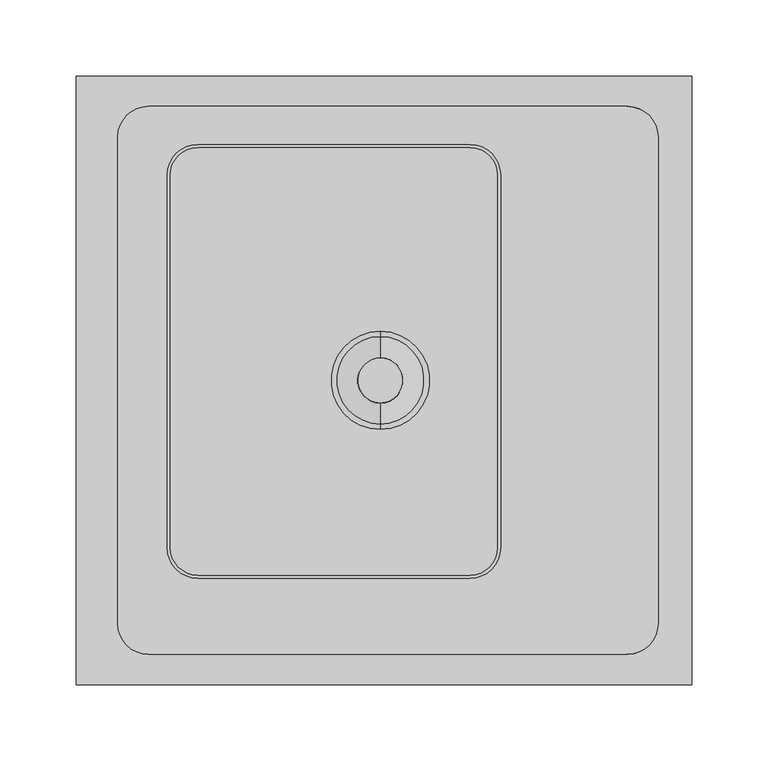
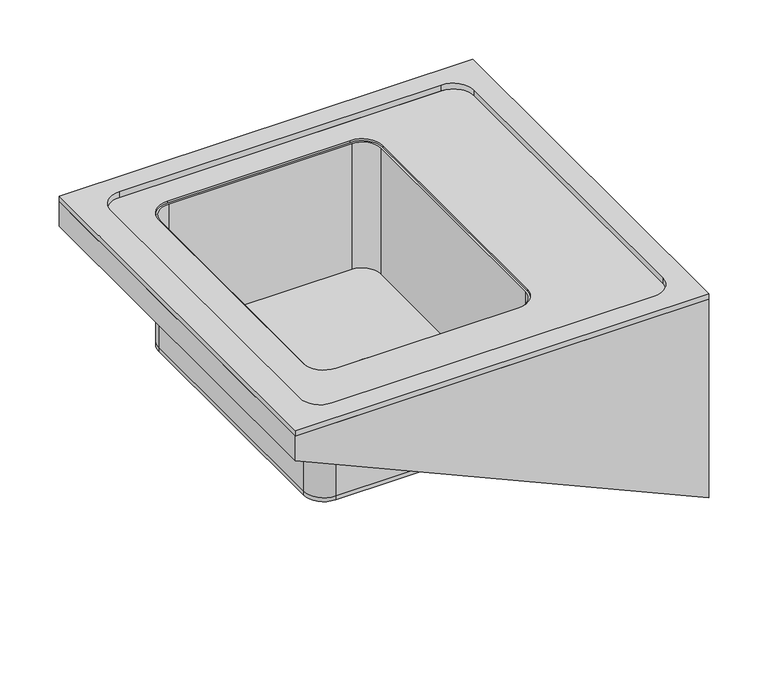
"""IFC4 building model written with IfcOpenShell, lengths in millimetres: flow terminal geometry, Pileta Aulas con Cartela : Pileta laboratorio."""

import ifcopenshell
import ifcopenshell.guid

model = None  # the IFC model being written
_history = None  # IfcOwnerHistory: only IFC2X3 demands one
_inside = {}  # id of a spatial element -> (the spatial element, [elements in it])
_under = {}  # id of a project, library or spatial element -> (it, [spatial elements below it])
_declared = {}  # id of a project -> (the project, [libraries it declares])
_typed = {}  # id of a type object -> (the type object, [elements of that type])
_made_of = {}  # id of a material, layer set ... -> (it, [elements and type objects made of it])


def new_model(schema):
    """Start an empty IFC model of exactly this schema.

    Asked for "IFC4X3", IfcOpenShell would pick the latest addendum, in which some entities
    have other attributes; the version numbers below select the first issue.
    IFC2X3 requires an IfcOwnerHistory on every rooted entity: one is made here for all.
    """
    global model, _history
    if schema == "IFC4X3":
        model = ifcopenshell.file(schema_version=(4, 3, 0, 0))
    else:
        model = ifcopenshell.file(schema=schema)
    _inside.clear()
    _under.clear()
    _declared.clear()
    _typed.clear()
    _made_of.clear()
    _history = None
    if model.schema == "IFC2X3":
        org = make("IfcOrganization", Name="unknown")
        user = make(
            "IfcPersonAndOrganization",
            ThePerson=make("IfcPerson", FamilyName="unknown"),
            TheOrganization=org,
        )
        app = make(
            "IfcApplication",
            ApplicationDeveloper=org,
            Version="unknown",
            ApplicationFullName="unknown",
            ApplicationIdentifier="unknown",
        )
        _history = make(
            "IfcOwnerHistory",
            OwningUser=user,
            OwningApplication=app,
            ChangeAction="ADDED",
            CreationDate=0,
        )
    return model


def make(cls, **values):
    """One entity of the class cls with the attributes given. An attribute that is None is left unset."""
    return model.create_entity(
        cls, **{name: value for name, value in values.items() if value is not None}
    )


def rooted(cls, **values):
    """An entity with a GlobalId (a new one), such as an element, a storey or a relation."""
    return make(cls, GlobalId=ifcopenshell.guid.new(), OwnerHistory=_history, **values)


def si_unit(unit_type, name, prefix=None):
    """IfcSIUnit, for example si_unit("LENGTHUNIT", "METRE", prefix="MILLI")."""
    return make("IfcSIUnit", UnitType=unit_type, Prefix=prefix, Name=name)


def assignment(units):
    """IfcUnitAssignment: the units of a project."""
    return None if units is None else make("IfcUnitAssignment", Units=units)


def point(xyz):
    """IfcCartesianPoint."""
    return None if xyz is None else make("IfcCartesianPoint", Coordinates=xyz)


def direction(xyz):
    """IfcDirection."""
    return None if xyz is None else make("IfcDirection", DirectionRatios=xyz)


def frame(location, z_axis=None, x_axis=None):
    """IfcAxis2Placement3D, a coordinate frame: its origin and axes. An axis left out is left unset."""
    return make(
        "IfcAxis2Placement3D",
        Location=point(location),
        Axis=direction(z_axis),
        RefDirection=direction(x_axis),
    )


def frame_2d(location, x_axis=None):
    """IfcAxis2Placement2D, a coordinate frame in the plane: its origin and x axis."""
    return make(
        "IfcAxis2Placement2D", Location=point(location), RefDirection=direction(x_axis)
    )


def origin():
    """The frame at (0, 0, 0) with its axes left unset."""
    return frame((0.0, 0.0, 0.0))


def origin_2d():
    """The frame at (0, 0) in the plane with its x axis left unset."""
    return frame_2d((0.0, 0.0))


def place(relative_to, where):
    """IfcLocalPlacement: puts the frame where relative to a parent placement (None: the world)."""
    return make(
        "IfcLocalPlacement", PlacementRelTo=relative_to, RelativePlacement=where
    )


def context(
    kind, dimensions, precision=None, world=None, true_north=None, identifier=None
):
    """IfcGeometricRepresentationContext, for example the 3D "Model" context."""
    return make(
        "IfcGeometricRepresentationContext",
        ContextIdentifier=identifier,
        ContextType=kind,
        CoordinateSpaceDimension=dimensions,
        Precision=precision,
        WorldCoordinateSystem=world,
        TrueNorth=true_north,
    )


def project(units=None, contexts=None):
    """IfcProject with its units and contexts."""
    return rooted(
        "IfcProject",
        Name="project",
        RepresentationContexts=contexts,
        UnitsInContext=assignment(units),
    )


def spatial(cls, under=None, at=None, **own):
    """A site, building, storey or space (cls), placed at a placement, below another one or the project."""
    s = rooted(cls, ObjectPlacement=at, **own)
    if under is not None:
        _under.setdefault(under.id(), (under, []))[1].append(s)
    return s


def polyline(points):
    """IfcPolyline through the points."""
    return make("IfcPolyline", Points=[point(p) for p in points])


def circle_curve(where, radius):
    """IfcCircle in the frame where."""
    return make("IfcCircle", Position=where, Radius=radius)


def ellipse_curve(where, semi_axis1, semi_axis2):
    """IfcEllipse in the frame where."""
    return make(
        "IfcEllipse", Position=where, SemiAxis1=semi_axis1, SemiAxis2=semi_axis2
    )


def trimmed(basis, trim1, trim2, sense, master):
    """IfcTrimmedCurve: the piece of a basis curve between two trims."""
    return make(
        "IfcTrimmedCurve",
        BasisCurve=basis,
        Trim1=trim1,
        Trim2=trim2,
        SenseAgreement=sense,
        MasterRepresentation=master,
    )


def segment(curve, same_sense, transition):
    """IfcCompositeCurveSegment."""
    return make(
        "IfcCompositeCurveSegment",
        Transition=transition,
        SameSense=same_sense,
        ParentCurve=curve,
    )


def composite_curve(segments, self_intersect=None):
    """IfcCompositeCurve: segments joined end to end."""
    return make("IfcCompositeCurve", Segments=segments, SelfIntersect=self_intersect)


def outline(outer, holes=None, kind="AREA"):
    """IfcArbitraryClosedProfileDef: a profile drawn as a closed curve; with holes, ...WithVoids."""
    if holes is None:
        return make("IfcArbitraryClosedProfileDef", ProfileType=kind, OuterCurve=outer)
    return make(
        "IfcArbitraryProfileDefWithVoids",
        ProfileType=kind,
        OuterCurve=outer,
        InnerCurves=holes,
    )


def extrude(swept, where, along, depth):
    """IfcExtrudedAreaSolid: the profile swept, set in the frame where, extruded along a direction by depth."""
    return make(
        "IfcExtrudedAreaSolid",
        SweptArea=swept,
        Position=where,
        ExtrudedDirection=direction(along),
        Depth=depth,
    )


def faces_of(points, faces, orient=None, outer=None):
    """IfcFace entities. A face is a list of loops; a loop is a list of indices into points, from 0.

    orient and outer hold one flag for each loop. By default every Orientation is true, the
    first loop of a face is its IfcFaceOuterBound and the others are IfcFaceBound.
    """
    made = []
    for i, loops in enumerate(faces):
        bounds = []
        for j, loop in enumerate(loops):
            is_outer = j == 0 if outer is None else outer[i][j]
            bounds.append(
                make(
                    "IfcFaceOuterBound" if is_outer else "IfcFaceBound",
                    Bound=make("IfcPolyLoop", Polygon=[points[k] for k in loop]),
                    Orientation=True if orient is None else orient[i][j],
                )
            )
        made.append(make("IfcFace", Bounds=bounds))
    return made


def faceted_brep(points, faces, orient=None, outer=None, voids=None):
    """IfcFacetedBrep: a solid bounded by flat faces; with voids (closed shells), ...WithVoids."""
    shared = [point(p) for p in points]
    hull = make("IfcClosedShell", CfsFaces=faces_of(shared, faces, orient, outer))
    if voids is None:
        return make("IfcFacetedBrep", Outer=hull)
    return make(
        "IfcFacetedBrepWithVoids",
        Outer=hull,
        Voids=[
            make(cls, CfsFaces=faces_of(shared, fs, o, b)) for cls, fs, o, b in voids
        ],
    )


def shape(context_of_items, identifier, shape_type, items):
    """IfcShapeRepresentation: the items that make up one representation, for example the "Body"."""
    return make(
        "IfcShapeRepresentation",
        ContextOfItems=context_of_items,
        RepresentationIdentifier=identifier,
        RepresentationType=shape_type,
        Items=items,
    )


def source(mapping_origin, context_of_items, identifier, shape_type, items):
    """IfcRepresentationMap: a shape defined once, which mapped items show again and again."""
    return make(
        "IfcRepresentationMap",
        MappingOrigin=mapping_origin,
        MappedRepresentation=shape(context_of_items, identifier, shape_type, items),
    )


def transform(
    local_origin,
    x_axis=None,
    y_axis=None,
    z_axis=None,
    scale=None,
    scale2=None,
    scale3=None,
    uniform=True,
):
    """IfcCartesianTransformationOperator3D, or its non-uniform kind. x_axis, y_axis, z_axis: its Axis1, 2, 3."""
    if uniform:
        return make(
            "IfcCartesianTransformationOperator3D",
            Axis1=direction(x_axis),
            Axis2=direction(y_axis),
            LocalOrigin=point(local_origin),
            Scale=scale,
            Axis3=direction(z_axis),
        )
    return make(
        "IfcCartesianTransformationOperator3DnonUniform",
        Axis1=direction(x_axis),
        Axis2=direction(y_axis),
        LocalOrigin=point(local_origin),
        Scale=scale,
        Axis3=direction(z_axis),
        Scale2=scale2,
        Scale3=scale3,
    )


def mapped(mapping_source, mapping_target):
    """IfcMappedItem: shows the shape of a source again, moved by a transform."""
    return make(
        "IfcMappedItem", MappingSource=mapping_source, MappingTarget=mapping_target
    )


def made_of(thing, what):
    """Note that an element or type object is made of a material, layer set ...; save() writes the relation."""
    if what is not None:
        _made_of.setdefault(what.id(), (what, []))[1].append(thing)
    return thing


def element(
    cls,
    number,
    at=None,
    inside=None,
    cuts=None,
    type_object=None,
    material=None,
    context=None,
    identifier="Body",
    shape_type=None,
    held_by="IfcProductDefinitionShape",
    body=None,
    shapes=None,
    **own,
):
    """One element of the class cls, such as IfcWall. Its Tag is "e" and its number.

    at: its placement. inside: the storey or other place that contains it. cuts: it is an
    opening in that element (IfcRelVoidsElement). A single representation is given by context,
    identifier, shape_type and body (its items); several are given by shapes. held_by: the class
    of the entity that holds the representations. save() writes the other relations.
    """
    e = rooted(cls, Tag="e%d" % number, ObjectPlacement=at, **own)
    if body is not None:
        shapes = [shape(context, identifier, shape_type, body)]
    if shapes is not None:
        e.Representation = make(held_by, Representations=shapes)
    if inside is not None:
        _inside.setdefault(inside.id(), (inside, []))[1].append(e)
    if cuts is not None:
        rooted(
            "IfcRelVoidsElement", RelatingBuildingElement=cuts, RelatedOpeningElement=e
        )
    if type_object is not None:
        _typed.setdefault(type_object.id(), (type_object, []))[1].append(e)
    return made_of(e, material)


def aggregate(whole, parts):
    """IfcRelAggregates: a whole, such as a stair, and the parts it consists of."""
    return rooted("IfcRelAggregates", RelatingObject=whole, RelatedObjects=parts)


def save(model, path):
    """Write the relations noted so far, then the file.

    IfcRelAggregates (storeys below a building ...), IfcRelContainedInSpatialStructure (elements
    in a storey), IfcRelDefinesByType, IfcRelAssociatesMaterial and IfcRelDeclares: one each for
    every whole, place, type object, material and project.
    """
    for whole, parts in _under.values():
        aggregate(whole, parts)
    for where, things in _inside.values():
        rooted(
            "IfcRelContainedInSpatialStructure",
            RelatedElements=things,
            RelatingStructure=where,
        )
    for kind, things in _typed.values():
        rooted("IfcRelDefinesByType", RelatedObjects=things, RelatingType=kind)
    for what, things in _made_of.values():
        rooted("IfcRelAssociatesMaterial", RelatedObjects=things, RelatingMaterial=what)
    for by, libraries in _declared.values():
        rooted("IfcRelDeclares", RelatingContext=by, RelatedDefinitions=libraries)
    model.write(path)


def plane_surface(at):
    """IfcPlane: the flat surface through the origin of the frame at, square to its z axis."""
    return make("IfcPlane", Position=at)


def cylinder_surface(at, radius):
    """IfcCylindricalSurface: all points at the distance radius from the z axis of the frame at."""
    return make("IfcCylindricalSurface", Position=at, Radius=radius)


def revolved_surface(curve, axis_point, axis_direction):
    """IfcSurfaceOfRevolution: the curve turned about the line through axis_point along axis_direction."""
    return make(
        "IfcSurfaceOfRevolution",
        SweptCurve=make("IfcArbitraryOpenProfileDef", ProfileType="CURVE", Curve=curve),
        AxisPosition=make("IfcAxis1Placement", Location=point(axis_point), Axis=direction(axis_direction)),
    )


def advanced_brep(points, edges, surfaces, faces):
    """IfcAdvancedBrep: a solid bounded by faces that lie on surfaces and meet in shared edges.

    An edge is (start, end): straight between two places in points (the first is 0);
    or (start, end, curve); or (start, end, curve, False) where it runs against its curve.
    A face is (place in surfaces, loops), or (place, loops, False) where it looks against
    its surface's normal. A loop lists edges by number (the first is 1), with a minus sign
    where the edge is run from its end to its start. The first loop is the outer one.
    """
    corners = [point(p) for p in points]
    vertices = [make("IfcVertexPoint", VertexGeometry=c) for c in corners]
    made = []
    for start, end, *more in edges:
        made.append(
            make(
                "IfcEdgeCurve",
                EdgeStart=vertices[start],
                EdgeEnd=vertices[end],
                EdgeGeometry=more[0] if more else make("IfcPolyline", Points=[corners[start], corners[end]]),
                SameSense=more[1] if len(more) > 1 else True,
            )
        )
    hull = []
    for where, loops, *sense in faces:
        bounds = []
        for j, loop in enumerate(loops):
            ring = [make("IfcOrientedEdge", EdgeElement=made[abs(k) - 1], Orientation=k > 0) for k in loop]
            bounds.append(
                make(
                    "IfcFaceOuterBound" if j == 0 else "IfcFaceBound",
                    Bound=make("IfcEdgeLoop", EdgeList=ring),
                    Orientation=True,
                )
            )
        hull.append(make("IfcAdvancedFace", Bounds=bounds, FaceSurface=surfaces[where], SameSense=sense[0] if sense else True))
    return make("IfcAdvancedBrep", Outer=make("IfcClosedShell", CfsFaces=hull))


def flow_terminal_eff49a54(model_context):
    return source(origin(), model_context, "Body", "SolidModel", [
        advanced_brep(
        [(0.0, -32.273037, -137.1152102), (0.0, 32.273037, -137.1152102), (0.0, 32.273037, -140.0), (0.0, -32.273037, -140.0), (0.0, -30.2142161, -145.5244744), (0.0, 30.2142161, -145.5244744), (0.0, 24.451577, -145.5244744), (0.0, -24.451577, -145.5244744), (0.0, -31.1325418, -144.6376576), (0.0, 31.1325418, -144.6376576), (0.0, -31.2944924, -140.0), (0.0, 31.2944924, -140.0), (0.0, -16.0, -155.4999987), (0.0, 16.0, -155.4999987), (0.0, 0.0, -155.4999987), (0.0, -28.8300718, -137.1152102), (0.0, 28.8300718, -137.1152102), (0.0, -14.8864823, -139.3236578), (0.0, 14.8864823, -139.3236578), (0.0, -14.4961959, -150.4999987), (0.0, 14.4961959, -150.4999987), (0.0, 0.0, -150.4999987), (0.0, -16.0, -151.4698169), (0.0, 16.0, -151.4698169), (0.0, -21.9298145, -148.046237), (0.0, 21.9298145, -148.046237)],
        [
            (0, 1, circle_curve(frame((0.0, 0.0, -137.1152102), z_axis=(0.0, 0.0, -1.0), x_axis=(0.0, 1.0, 0.0)), 32.273037)),
            (1, 2),
            (2, 3, circle_curve(frame((0.0, 0.0, -140.0), z_axis=(0.0, 0.0, 1.0), x_axis=(0.0, 1.0, 0.0)), 32.273037)),
            (3, 0),
            (1, 0, circle_curve(frame((0.0, 0.0, -137.1152102), z_axis=(0.0, 0.0, -1.0), x_axis=(0.0, 1.0, 0.0)), 32.273037)),
            (3, 2, circle_curve(frame((0.0, 0.0, -140.0), z_axis=(0.0, 0.0, 1.0), x_axis=(0.0, 1.0, 0.0)), 32.273037)),
            (4, 5, circle_curve(frame((0.0, 0.0, -145.5244744), z_axis=(0.0, 0.0, -1.0), x_axis=(0.0, 1.0, 0.0)), 30.2142161)),
            (5, 6),
            (6, 7, circle_curve(frame((0.0, 0.0, -145.5244744), z_axis=(0.0, 0.0, 1.0), x_axis=(0.0, 1.0, 0.0)), 24.451577)),
            (7, 4),
            (5, 4, circle_curve(frame((0.0, 0.0, -145.5244744), z_axis=(0.0, 0.0, -1.0), x_axis=(0.0, 1.0, 0.0)), 30.2142161)),
            (7, 6, circle_curve(frame((0.0, 0.0, -145.5244744), z_axis=(0.0, 0.0, 1.0), x_axis=(0.0, 1.0, 0.0)), 24.451577)),
            (8, 9, circle_curve(frame((0.0, 0.0, -144.6376576), z_axis=(0.0, 0.0, -1.0), x_axis=(0.0, 1.0, 0.0)), 31.1325418)),
            (9, 5, circle_curve(frame((0.0, 30.2142161, -144.605589), z_axis=(-1.0, 0.0, 0.0), x_axis=(0.0, 1.0, 0.0)), 0.9188855)),
            (4, 8, circle_curve(frame((0.0, -30.2142161, -144.605589), z_axis=(-1.0, 0.0, 0.0), x_axis=(0.0, -1.0, 0.0)), 0.9188855)),
            (9, 8, circle_curve(frame((0.0, 0.0, -144.6376576), z_axis=(0.0, 0.0, -1.0), x_axis=(0.0, 1.0, 0.0)), 31.1325418)),
            (10, 11, circle_curve(frame((0.0, 0.0, -140.0), z_axis=(0.0, 0.0, -1.0), x_axis=(0.0, 1.0, 0.0)), 31.2944924)),
            (11, 9),
            (8, 10),
            (11, 10, circle_curve(frame((0.0, 0.0, -140.0), z_axis=(0.0, 0.0, -1.0), x_axis=(0.0, 1.0, 0.0)), 31.2944924)),
            (2, 11),
            (10, 3),
            (12, 13, circle_curve(frame((0.0, 0.0, -155.4999987), z_axis=(0.0, 0.0, -1.0), x_axis=(0.0, 1.0, 0.0)), 16.0)),
            (13, 14),
            (14, 12),
            (13, 12, circle_curve(frame((0.0, 0.0, -155.4999987), z_axis=(0.0, 0.0, -1.0), x_axis=(0.0, 1.0, 0.0)), 16.0)),
            (15, 16, circle_curve(frame((0.0, 0.0, -137.1152102), z_axis=(0.0, 0.0, -1.0), x_axis=(0.0, 1.0, 0.0)), 28.8300718)),
            (16, 1),
            (0, 15),
            (16, 15, circle_curve(frame((0.0, 0.0, -137.1152102), z_axis=(0.0, 0.0, -1.0), x_axis=(0.0, 1.0, 0.0)), 28.8300718)),
            (17, 18, circle_curve(frame((0.0, 0.0, -139.3236578), z_axis=(0.0, 0.0, -1.0), x_axis=(0.0, 1.0, 0.0)), 14.8864823)),
            (18, 16),
            (15, 17),
            (18, 17, circle_curve(frame((0.0, 0.0, -139.3236578), z_axis=(0.0, 0.0, -1.0), x_axis=(0.0, 1.0, 0.0)), 14.8864823)),
            (19, 20, circle_curve(frame((0.0, 0.0, -150.4999987), z_axis=(0.0, 0.0, -1.0), x_axis=(0.0, 1.0, 0.0)), 14.4961959)),
            (20, 18),
            (17, 19),
            (20, 19, circle_curve(frame((0.0, 0.0, -150.4999987), z_axis=(0.0, 0.0, -1.0), x_axis=(0.0, 1.0, 0.0)), 14.4961959)),
            (21, 20),
            (19, 21),
            (22, 23, circle_curve(frame((0.0, 0.0, -151.4698169), z_axis=(0.0, 0.0, -1.0), x_axis=(0.0, 1.0, 0.0)), 16.0)),
            (23, 13),
            (12, 22),
            (23, 22, circle_curve(frame((0.0, 0.0, -151.4698169), z_axis=(0.0, 0.0, -1.0), x_axis=(0.0, 1.0, 0.0)), 16.0)),
            (24, 25, circle_curve(frame((0.0, 0.0, -148.046237), z_axis=(0.0, 0.0, -1.0), x_axis=(0.0, 1.0, 0.0)), 21.9298145)),
            (25, 23),
            (22, 24),
            (25, 24, circle_curve(frame((0.0, 0.0, -148.046237), z_axis=(0.0, 0.0, -1.0), x_axis=(0.0, 1.0, 0.0)), 21.9298145)),
            (6, 25),
            (24, 7),
        ],
        [
            cylinder_surface(frame((0.0, 0.0, 2595.9801746), z_axis=(0.0, 0.0, 1.0), x_axis=(0.0, 1.0, 0.0)), 32.273037),
            plane_surface(frame((0.0, 0.0, -145.5244744), z_axis=(0.0, 0.0, -1.0), x_axis=(0.0, 1.0, 0.0))),
            revolved_surface(trimmed(ellipse_curve(frame((0.0, 30.2142161, -144.605589), z_axis=(1.0, 0.0, 0.0), x_axis=(0.0, 1.0, 0.0)), 0.9188855, 0.9188855), [point((0.0, 30.2142161, -145.5244744))], [point((0.0, 31.1325418, -144.6376576))], True, "CARTESIAN"), (0.0, 0.0, 2595.9801746), (0.0, 0.0, 1.0)),
            revolved_surface(polyline([(0.0, 31.1325418, -144.6376576), (0.0, 31.2944924, -140.0)]), (0.0, 0.0, 2595.9801746), (0.0, 0.0, 1.0)),
            plane_surface(frame((0.0, 0.0, -140.0), z_axis=(0.0, 0.0, -1.0), x_axis=(0.0, 1.0, 0.0))),
            plane_surface(frame((0.0, 0.0, -155.4999987), z_axis=(0.0, 0.0, -1.0), x_axis=(0.0, 1.0, 0.0))),
            plane_surface(frame((0.0, 0.0, -137.1152102), z_axis=(0.0, 0.0, 1.0), x_axis=(0.0, 1.0, 0.0))),
            revolved_surface(polyline([(0.0, 28.8300718, -137.1152102), (0.0, 14.8864823, -139.3236578)]), (0.0, 0.0, 2595.9801746), (0.0, 0.0, 1.0)),
            revolved_surface(polyline([(0.0, 14.8864823, -139.3236578), (0.0, 14.4961959, -150.4999987)]), (0.0, 0.0, 2595.9801746), (0.0, 0.0, 1.0)),
            plane_surface(frame((0.0, 0.0, -150.4999987), z_axis=(0.0, 0.0, 1.0), x_axis=(0.0, 1.0, 0.0))),
            cylinder_surface(frame((0.0, 0.0, 2595.9801746), z_axis=(0.0, 0.0, 1.0), x_axis=(0.0, 1.0, 0.0)), 16.0),
            revolved_surface(polyline([(0.0, 16.0, -151.4698169), (0.0, 21.9298145, -148.046237)]), (0.0, 0.0, 2595.9801746), (0.0, 0.0, 1.0)),
            revolved_surface(polyline([(0.0, 21.9298145, -148.046237), (0.0, 24.451577, -145.5244744)]), (0.0, 0.0, 2595.9801746), (0.0, 0.0, 1.0)),
        ],
        [
            (0, [[1, 2, 3, 4]]),
            (0, [[5, -4, 6, -2]]),
            (1, [[7, 8, 9, 10]]),
            (1, [[11, -10, 12, -8]]),
            (2, [[13, 14, -7, 15]]),
            (2, [[16, -15, -11, -14]]),
            (3, [[17, 18, -13, 19]]),
            (3, [[20, -19, -16, -18]]),
            (4, [[-3, 21, -17, 22]]),
            (4, [[-6, -22, -20, -21]]),
            (5, [[23, 24, 25]]),
            (5, [[26, -25, -24]]),
            (6, [[27, 28, -1, 29]]),
            (6, [[30, -29, -5, -28]]),
            (7, [[31, 32, -27, 33]]),
            (7, [[34, -33, -30, -32]]),
            (8, [[35, 36, -31, 37]]),
            (8, [[38, -37, -34, -36]]),
            (9, [[39, -35, 40]]),
            (9, [[-40, -38, -39]]),
            (10, [[41, 42, -23, 43]]),
            (10, [[44, -43, -26, -42]]),
            (11, [[45, 46, -41, 47]]),
            (11, [[48, -47, -44, -46]]),
            (12, [[-9, 49, -45, 50]]),
            (12, [[-12, -50, -48, -49]]),
        ],
    ),
        extrude(outline(composite_curve([segment(trimmed(circle_curve(origin_2d(), 16.0), [point((-16.0, 0.0))], [point((16.0, 0.0))], False, "CARTESIAN"), True, "CONTINUOUS"), segment(trimmed(circle_curve(origin_2d(), 16.0), [point((16.0, 0.0))], [point((-16.0, 0.0))], False, "CARTESIAN"), True, "CONTINUOUS")], self_intersect=False)), frame((0.0, 0.0, -164.5053436), z_axis=(0.0, 0.0, 1.0), x_axis=(1.0, 0.0, 0.0)), (0.0, 0.0, 1.0), 9.0),
        extrude(outline(composite_curve([segment(trimmed(circle_curve(origin_2d(), 25.0), [point((-25.0, 0.0))], [point((25.0, 0.0))], False, "CARTESIAN"), True, "CONTINUOUS"), segment(trimmed(circle_curve(origin_2d(), 25.0), [point((25.0, 0.0))], [point((-25.0, 0.0))], False, "CARTESIAN"), True, "CONTINUOUS")], self_intersect=False)), frame((0.0, 0.0, -142.0), z_axis=(0.0, 0.0, 1.0), x_axis=(1.0, 0.0, 0.0)), (0.0, 0.0, 1.0), 2.0),
        faceted_brep([(-200.0, -200.0, -6.0), (-200.0, -200.0, -31.0211756), (204.8005672, -200.0, -211.25), (204.8005672, -200.0, -6.0), (204.8005672, -198.0, -6.0), (204.8005672, -198.0, -211.25), (-200.0, -198.0, -31.0211756), (-198.0, -198.0, -31.0211756), (-198.0, -198.0, -6.0), (-198.0, 198.0, -6.0), (204.8005672, 198.0, -6.0), (204.8005672, 200.0, -6.0), (-200.0, 200.0, -6.0), (-200.0, 200.0, -31.0211756), (-200.0, 198.0, -31.0211756), (-198.0, 198.0, -31.0211756), (204.8005672, 200.0, -211.25), (204.8005672, 198.0, -211.25)], [[[0, 1, 2, 3]], [[4, 5, 6, 7, 8]], [[3, 4, 8, 9, 10, 11, 12, 0]], [[1, 0, 12, 13, 14, 6]], [[2, 1, 6, 5]], [[3, 2, 5, 4]], [[8, 7, 15, 9]], [[7, 6, 14, 15]], [[13, 12, 11, 16]], [[14, 17, 10, 9, 15]], [[17, 14, 13, 16]], [[10, 17, 16, 11]]]),
        extrude(outline(composite_curve([segment(trimmed(circle_curve(frame_2d((59.0, 135.0)), 20.0), [point((59.0, 155.0))], [point((79.0, 135.0))], False, "CARTESIAN"), True, "CONTINUOUS"), segment(polyline([(79.0, 135.0), (79.0, -110.0)]), True, "CONTINUOUS"), segment(trimmed(circle_curve(frame_2d((59.0, -110.0)), 20.0), [point((79.0, -110.0))], [point((59.0, -130.0))], False, "CARTESIAN"), True, "CONTINUOUS"), segment(polyline([(59.0, -130.0), (-120.0, -130.0)]), True, "CONTINUOUS"), segment(trimmed(circle_curve(frame_2d((-120.0, -110.0)), 20.0), [point((-120.0, -130.0))], [point((-140.0, -110.0))], False, "CARTESIAN"), True, "CONTINUOUS"), segment(polyline([(-140.0, -110.0), (-140.0, 135.0)]), True, "CONTINUOUS"), segment(trimmed(circle_curve(frame_2d((-120.0, 135.0)), 20.0), [point((-140.0, 135.0))], [point((-120.0, 155.0))], False, "CARTESIAN"), True, "CONTINUOUS"), segment(polyline([(-120.0, 155.0), (59.0, 155.0)]), True, "CONTINUOUS")], self_intersect=False), holes=[composite_curve([segment(trimmed(circle_curve(frame_2d((-120.0, -110.0)), 18.0), [point((-138.0, -110.0))], [point((-120.0, -128.0))], True, "CARTESIAN"), True, "CONTINUOUS"), segment(polyline([(-120.0, -128.0), (59.0, -128.0)]), True, "CONTINUOUS"), segment(trimmed(circle_curve(frame_2d((59.0, -110.0)), 18.0), [point((59.0, -128.0))], [point((77.0, -110.0))], True, "CARTESIAN"), True, "CONTINUOUS"), segment(polyline([(77.0, -110.0), (77.0, 135.0)]), True, "CONTINUOUS"), segment(trimmed(circle_curve(frame_2d((59.0, 135.0)), 18.0), [point((77.0, 135.0))], [point((59.0, 153.0))], True, "CARTESIAN"), True, "CONTINUOUS"), segment(polyline([(59.0, 153.0), (-120.0, 153.0)]), True, "CONTINUOUS"), segment(trimmed(circle_curve(frame_2d((-120.0, 135.0)), 18.0), [point((-120.0, 153.0))], [point((-138.0, 135.0))], True, "CARTESIAN"), True, "CONTINUOUS"), segment(polyline([(-138.0, 135.0), (-138.0, -110.0)]), True, "CONTINUOUS")], self_intersect=False)]), frame((0.0, 0.0, -138.0), z_axis=(0.0, 0.0, 1.0), x_axis=(1.0, 0.0, 0.0)), (0.0, 0.0, 1.0), 130.0),
        extrude(outline(composite_curve([segment(polyline([(-120.0, 155.0), (59.0, 155.0)]), True, "CONTINUOUS"), segment(trimmed(circle_curve(frame_2d((59.0, 135.0)), 20.0), [point((59.0, 155.0))], [point((79.0, 135.0))], False, "CARTESIAN"), True, "CONTINUOUS"), segment(polyline([(79.0, 135.0), (79.0, -110.0)]), True, "CONTINUOUS"), segment(trimmed(circle_curve(frame_2d((59.0, -110.0)), 20.0), [point((79.0, -110.0))], [point((59.0, -130.0))], False, "CARTESIAN"), True, "CONTINUOUS"), segment(polyline([(59.0, -130.0), (-120.0, -130.0)]), True, "CONTINUOUS"), segment(trimmed(circle_curve(frame_2d((-120.0, -110.0)), 20.0), [point((-120.0, -130.0))], [point((-140.0, -110.0))], False, "CARTESIAN"), True, "CONTINUOUS"), segment(polyline([(-140.0, -110.0), (-140.0, 135.0)]), True, "CONTINUOUS"), segment(trimmed(circle_curve(frame_2d((-120.0, 135.0)), 20.0), [point((-140.0, 135.0))], [point((-120.0, 155.0))], False, "CARTESIAN"), True, "CONTINUOUS")], self_intersect=False), holes=[composite_curve([segment(trimmed(circle_curve(origin_2d(), 28.8300718), [point((-28.8300718, 0.0))], [point((28.8300718, 0.0))], True, "CARTESIAN"), True, "CONTINUOUS"), segment(trimmed(circle_curve(origin_2d(), 28.8300718), [point((28.8300718, 0.0))], [point((-28.8300718, 0.0))], True, "CARTESIAN"), True, "CONTINUOUS")], self_intersect=False)]), frame((0.0, 0.0, -142.0), z_axis=(0.0, 0.0, 1.0), x_axis=(1.0, 0.0, 0.0)), (0.0, 0.0, 1.0), 4.0),
        extrude(outline(composite_curve([segment(polyline([(-157.0, 180.0), (161.8005672, 180.0)]), True, "CONTINUOUS"), segment(trimmed(circle_curve(frame_2d((161.8005672, 157.0)), 23.0), [point((161.8005672, 180.0))], [point((184.8005672, 157.0))], False, "CARTESIAN"), True, "CONTINUOUS"), segment(polyline([(184.8005672, 157.0), (184.8005672, -157.0)]), True, "CONTINUOUS"), segment(trimmed(circle_curve(frame_2d((161.8005672, -157.0)), 23.0), [point((184.8005672, -157.0))], [point((161.8005672, -180.0))], False, "CARTESIAN"), True, "CONTINUOUS"), segment(polyline([(161.8005672, -180.0), (-157.0, -180.0)]), True, "CONTINUOUS"), segment(trimmed(circle_curve(frame_2d((-157.0, -157.0)), 23.0), [point((-157.0, -180.0))], [point((-180.0, -157.0))], False, "CARTESIAN"), True, "CONTINUOUS"), segment(polyline([(-180.0, -157.0), (-180.0, 157.0)]), True, "CONTINUOUS"), segment(trimmed(circle_curve(frame_2d((-157.0, 157.0)), 23.0), [point((-180.0, 157.0))], [point((-157.0, 180.0))], False, "CARTESIAN"), True, "CONTINUOUS")], self_intersect=False), holes=[composite_curve([segment(polyline([(59.0, 155.0), (-120.0, 155.0)]), True, "CONTINUOUS"), segment(trimmed(circle_curve(frame_2d((-120.0, 135.0)), 20.0), [point((-120.0, 155.0))], [point((-140.0, 135.0))], True, "CARTESIAN"), True, "CONTINUOUS"), segment(polyline([(-140.0, 135.0), (-140.0, -110.0)]), True, "CONTINUOUS"), segment(trimmed(circle_curve(frame_2d((-120.0, -110.0)), 20.0), [point((-140.0, -110.0))], [point((-120.0, -130.0))], True, "CARTESIAN"), True, "CONTINUOUS"), segment(polyline([(-120.0, -130.0), (59.0, -130.0)]), True, "CONTINUOUS"), segment(trimmed(circle_curve(frame_2d((59.0, -110.0)), 20.0), [point((59.0, -130.0))], [point((79.0, -110.0))], True, "CARTESIAN"), True, "CONTINUOUS"), segment(polyline([(79.0, -110.0), (79.0, 135.0)]), True, "CONTINUOUS"), segment(trimmed(circle_curve(frame_2d((59.0, 135.0)), 20.0), [point((79.0, 135.0))], [point((59.0, 155.0))], True, "CARTESIAN"), True, "CONTINUOUS")], self_intersect=False)]), frame((0.0, 0.0, -8.0), z_axis=(0.0, 0.0, 1.0), x_axis=(1.0, 0.0, 0.0)), (0.0, 0.0, 1.0), 2.0),
        extrude(outline(polyline([(204.8005672, 200.0), (204.8005672, -200.0), (-200.0, -200.0), (-200.0, 200.0), (204.8005672, 200.0)]), holes=[composite_curve([segment(polyline([(162.5, 180.0), (-152.5, 180.0)]), True, "CONTINUOUS"), segment(trimmed(circle_curve(frame_2d((-152.5, 160.0)), 20.0), [point((-152.5, 180.0))], [point((-172.5, 160.0))], True, "CARTESIAN"), True, "CONTINUOUS"), segment(polyline([(-172.5, 160.0), (-172.5, -160.0)]), True, "CONTINUOUS"), segment(trimmed(circle_curve(frame_2d((-152.5, -160.0)), 20.0), [point((-172.5, -160.0))], [point((-152.5, -180.0))], True, "CARTESIAN"), True, "CONTINUOUS"), segment(polyline([(-152.5, -180.0), (162.5, -180.0)]), True, "CONTINUOUS"), segment(trimmed(circle_curve(frame_2d((162.5, -160.0)), 20.0), [point((162.5, -180.0))], [point((182.5, -160.0))], True, "CARTESIAN"), True, "CONTINUOUS"), segment(polyline([(182.5, -160.0), (182.5, 160.0)]), True, "CONTINUOUS"), segment(trimmed(circle_curve(frame_2d((162.5, 160.0)), 20.0), [point((182.5, 160.0))], [point((162.5, 180.0))], True, "CARTESIAN"), True, "CONTINUOUS")], self_intersect=False)]), frame((0.0, 0.0, -6.0), z_axis=(0.0, 0.0, 1.0), x_axis=(1.0, 0.0, 0.0)), (0.0, 0.0, 1.0), 6.0),
    ])


if __name__ == "__main__":
    model = new_model("IFC4")
    model_context = context("Model", 3, world=origin())
    ifc_project = project(units=[si_unit("LENGTHUNIT", "METRE", prefix="MILLI")], contexts=[model_context])
    site = spatial("IfcSite", under=ifc_project)
    building = spatial("IfcBuilding", under=site)
    placement = place(None, origin())
    flow_terminal_shape = flow_terminal_eff49a54(model_context)
    element("IfcFlowTerminal", 1, ObjectType="Pileta Aulas con Cartela : Pileta laboratorio", at=placement, inside=building, context=model_context, shape_type="MappedRepresentation", body=[
        mapped(flow_terminal_shape, transform((0.0, 0.0, 0.0), x_axis=(1.0, 0.0, 0.0), y_axis=(0.0, 1.0, 0.0), z_axis=(0.0, 0.0, 1.0))),
    ])
    save(model, "model.ifc")
